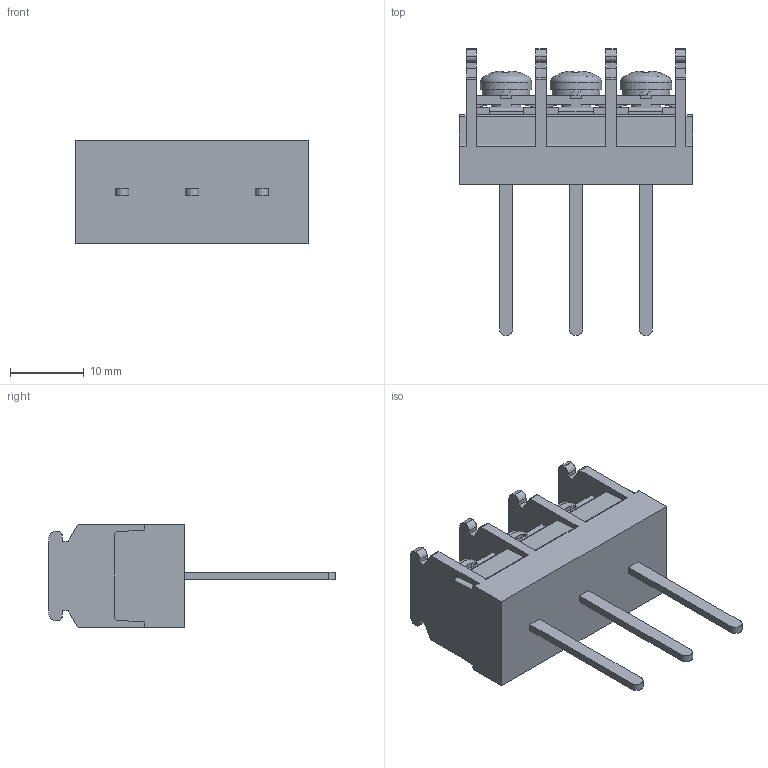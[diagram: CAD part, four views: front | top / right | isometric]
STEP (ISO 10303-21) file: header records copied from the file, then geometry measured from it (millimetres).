
FILE_DESCRIPTION(/* description */ ('Alibre Inc.'),/* implementation_level */ '2;1');
FILE_NAME(/* name */ 'export-D34FA555-0838-4099-B214-5879FE72FAE4',/* time_stamp */ '2021-02-13T15:11:07+09:00',/* author */ (''),/* organization */ (''),/* preprocessor_version */ 'ST-DEVELOPER v17',/* originating_system */ 'Alibre',/* authorisation */ '');
FILE_SCHEMA (('CONFIG_CONTROL_DESIGN'));
Length unit declared in the file: millimetre
Bounding box: 31.7 x 39 x 14 mm (x, y, z)
Volume: 5485.4 mm3; surface area: 4137.8 mm2
Topology: 1 solids, 20 shells, 762 faces, 2085 edges, 1377 vertices
Faces by surface type: plane 558, bspline 104, cylinder 76, cone 15, torus 6, sphere 3
Full cylindrical faces by diameter (mm): 4 x6, 7 x3
Entity records: 23146 total; most frequent: CARTESIAN_POINT 5148, ORIENTED_EDGE 4122, DIRECTION 2757, EDGE_CURVE 2061, VECTOR 1535, LINE 1535, VERTEX_POINT 1371, AXIS2_PLACEMENT_3D 874
